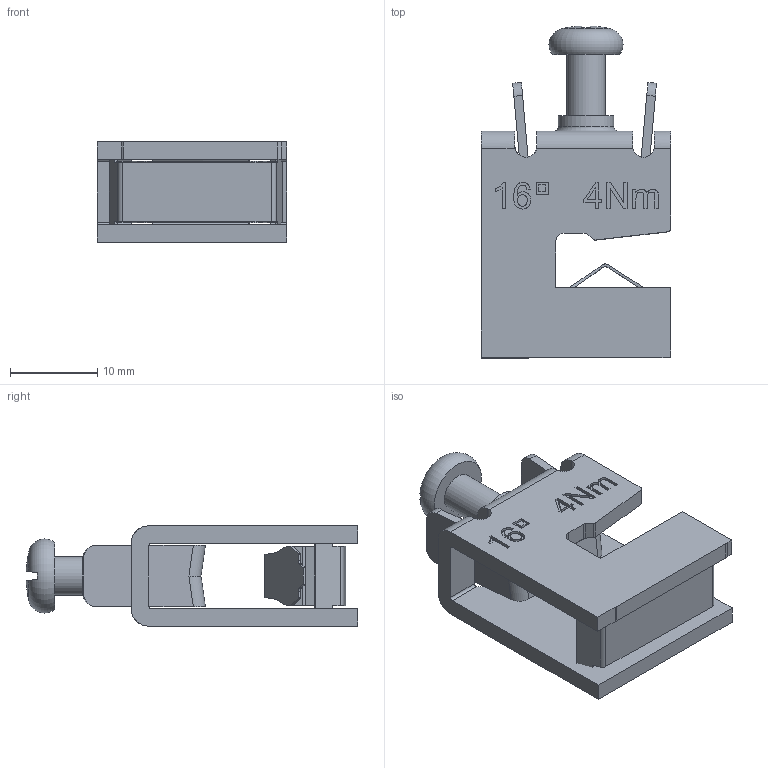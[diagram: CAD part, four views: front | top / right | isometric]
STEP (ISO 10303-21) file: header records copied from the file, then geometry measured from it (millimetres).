
FILE_DESCRIPTION (( 'STEP AP203' ), '1' );
FILE_NAME ('54284.STEP', '2021-08-13T05:03:11', ( '' ), ( '' ), 'SwSTEP 2.0', 'SolidWorks 2017', '' );
FILE_SCHEMA (( 'CONFIG_CONTROL_DESIGN' ));
Length unit declared in the file: millimetre
Products named in the file (2): 54284
Bounding box: 21.7 x 38.07 x 11.5 mm (x, y, z)
Volume: 2843.2 mm3; surface area: 4366.1 mm2
Topology: 4 solids, 4 shells, 266 faces, 744 edges, 495 vertices
Faces by surface type: plane 165, cylinder 72, bspline 25, torus 2, sphere 2
Full cylindrical faces by diameter (mm): 4.4 x2, 6.4 x1
Entity records: 10031 total; most frequent: CARTESIAN_POINT 3175, ORIENTED_EDGE 1474, DIRECTION 1273, EDGE_CURVE 737, LINE 507, VECTOR 507, VERTEX_POINT 493, AXIS2_PLACEMENT_3D 383
